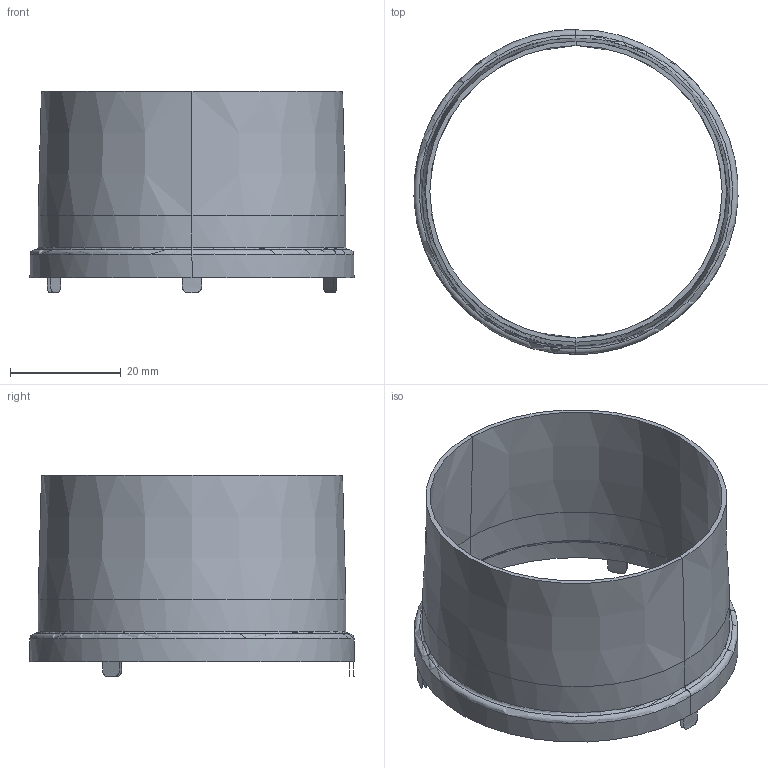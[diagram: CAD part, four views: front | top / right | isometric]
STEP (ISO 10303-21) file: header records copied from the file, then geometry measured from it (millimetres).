
FILE_DESCRIPTION(/* description */ (''),/* implementation_level */ '2;1');
FILE_NAME(/* name */ 'C:\Users\FrancoSartori\Documents\FARO\01_En Proceso\0000_2022\000_PRO\000_FOST\03_Publicación\011700095 (Long Snoot 64).stp',/* time_stamp */ '2022-04-25T08:12:45+02:00',/* author */ ('FrancoSartori'),/* organization */ (''),/* preprocessor_version */ 'ST-DEVELOPER v19',/* originating_system */ 'AutoCAD Mechanical',/* authorisation */ '');
FILE_SCHEMA (('AUTOMOTIVE_DESIGN { 1 0 10303 214 3 1 1 }'));
Length unit declared in the file: millimetre
Products named in the file (2): Product; 011700095 _Long Snoot64_ - Lamp-712556-Export
Assembly tree (1 placements, depth 2):
  Product
    011700095 _Long Snoot64_ - Lamp-712556-Export
Bounding box: 58.47 x 58.5 x 36.3 mm (x, y, z)
Surface area: 12252 mm2 (no closed solid volume)
Topology: 0 solids, 1 shells, 32 faces, 111 edges, 76 vertices
Faces by surface type: cylinder 14, plane 8, torus 6, cone 4
Entity records: 1799 total; most frequent: CARTESIAN_POINT 908, ORIENTED_EDGE 186, DIRECTION 145, EDGE_CURVE 111, VERTEX_POINT 76, B_SPLINE_CURVE_WITH_KNOTS 56, AXIS2_PLACEMENT_3D 55, LINE 35
